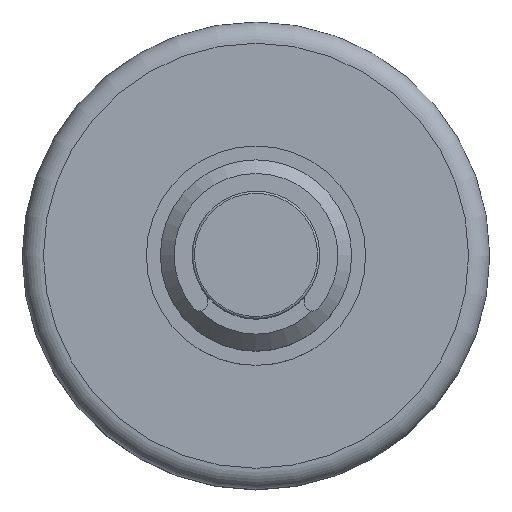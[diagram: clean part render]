
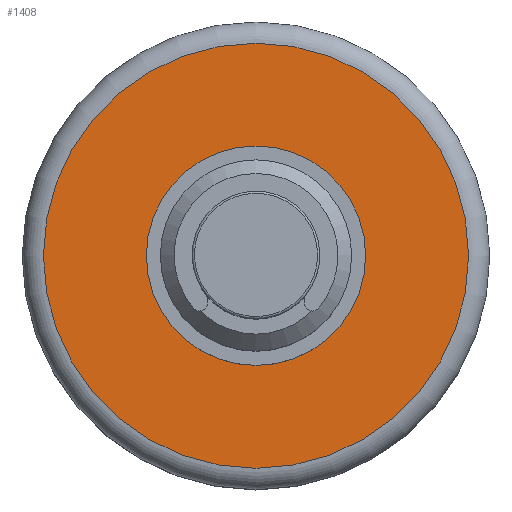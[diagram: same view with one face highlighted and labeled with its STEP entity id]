
A CAD part, top view. The second image highlights one B-rep face of the part: STEP entity #1408.
In plain terms, the highlighted planar face has unit normal (0, 0, 1).
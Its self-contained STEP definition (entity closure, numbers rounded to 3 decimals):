
#42 = DIRECTION ( 'NONE',  ( 0., 0., 1. ) ) ;
#48 = DIRECTION ( 'NONE',  ( 1., 0., 0. ) ) ;
#96 = AXIS2_PLACEMENT_3D ( 'NONE', #856, #42, #48 ) ;
#255 = EDGE_CURVE ( 'NONE', #945, #945, #774, .T. ) ;
#440 = ORIENTED_EDGE ( 'NONE', *, *, #255, .T. ) ;
#723 = PLANE ( 'NONE',  #96 ) ;
#774 = CIRCLE ( 'NONE', #1283, 10. ) ;
#850 = FACE_OUTER_BOUND ( 'NONE', #996, .T. ) ;
#856 = CARTESIAN_POINT ( 'NONE',  ( 0., 0., 12. ) ) ;
#871 = CARTESIAN_POINT ( 'NONE',  ( 10., 0., 12. ) ) ;
#945 = VERTEX_POINT ( 'NONE', #871 ) ;
#996 = EDGE_LOOP ( 'NONE', ( #440 ) ) ;
#1210 = CARTESIAN_POINT ( 'NONE',  ( 0., 0., 12. ) ) ;
#1283 = AXIS2_PLACEMENT_3D ( 'NONE', #1210, #1637, #1349 ) ;
#1349 = DIRECTION ( 'NONE',  ( 1., 0., 0. ) ) ;
#1408 = ADVANCED_FACE ( 'NONE', ( #850 ), #723, .T. ) ;
#1637 = DIRECTION ( 'NONE',  ( 0., 0., 1. ) ) ;
